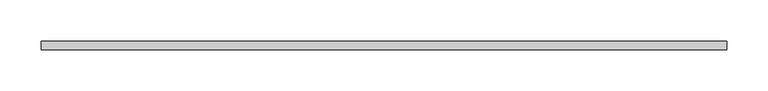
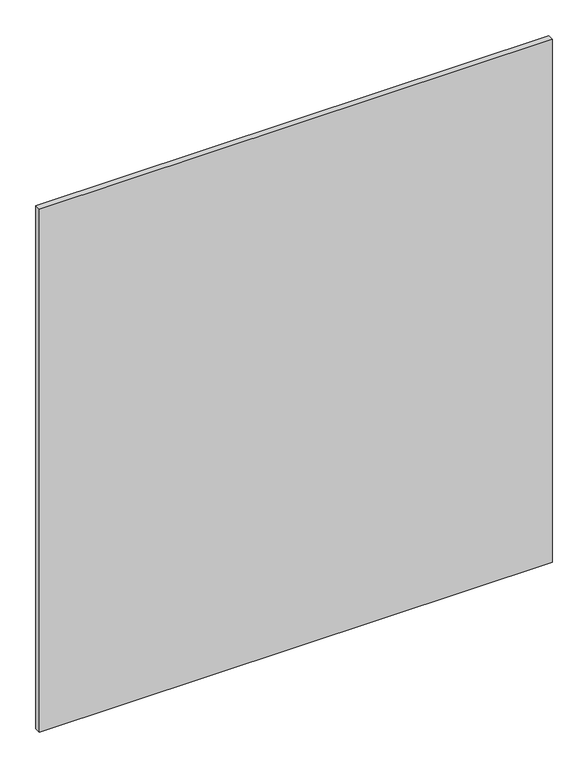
"""IFC4 building model written with IfcOpenShell, lengths in millimetres: plate geometry, システム パネル : 標準."""

from ifc_helpers import new_model, si_unit, origin, origin_with_axes, place, context, project, spatial, polyline, outline, extrude, source, transform, mapped, element, save


def plate_396bcf3c(model_context):
    return source(origin(), model_context, "Body", "SweptSolid", [
        extrude(outline(polyline([(415.0, -5.0), (-415.0, -5.0), (-415.0, 5.0), (415.0, 5.0), (415.0, -5.0)])), origin_with_axes(), (0.0, 0.0, 1.0), 895.0),
    ])


if __name__ == "__main__":
    model = new_model("IFC4")
    model_context = context("Model", 3, world=origin())
    ifc_project = project(units=[si_unit("LENGTHUNIT", "METRE", prefix="MILLI")], contexts=[model_context])
    site = spatial("IfcSite", under=ifc_project)
    building = spatial("IfcBuilding", under=site)
    placement = place(None, origin())
    plate_shape = plate_396bcf3c(model_context)
    element("IfcPlate", 1, ObjectType="システム パネル : 標準", at=placement, inside=building, context=model_context, shape_type="MappedRepresentation", body=[
        mapped(plate_shape, transform((0.0, 0.0, 0.0), x_axis=(1.0, 0.0, 0.0), y_axis=(0.0, 1.0, 0.0), z_axis=(0.0, 0.0, 1.0))),
    ])
    save(model, "model.ifc")
